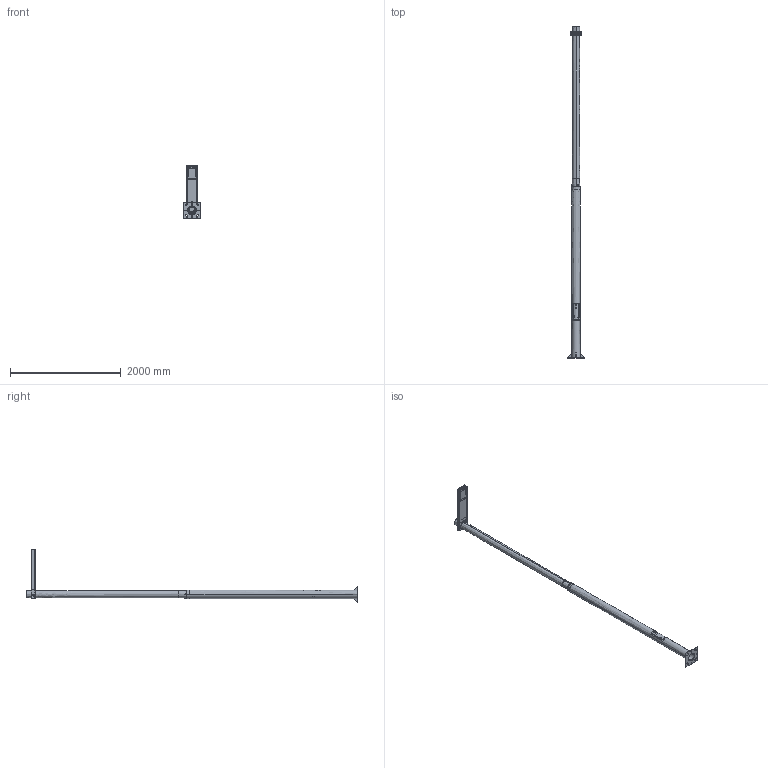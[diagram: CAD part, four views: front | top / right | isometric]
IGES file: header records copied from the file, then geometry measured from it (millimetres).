
Start section: SolidWorks IGES file using analytic representation for surfaces
Global section: file name: C:\SANTACOLE_PDM\Proyectos Catálogo\PROD-P08-042 -- RAMA LED\6_Técnico comercial\3D WEB\FAROLA RAMA LED 6.0M 1 LUMINARIA 2 SECCIONES.IGS; native system: SolidWorks 2013; preprocessor: SolidWorks 2013; author: MarioV; date: 150330.191724; units: millimetre
Bounding box: 300 x 6000 x 963 mm (x, y, z)
Volume: 11519524.3 mm3; surface area: 6732487 mm2
Topology: 44 solids, 44 shells, 4061 faces, 10833 edges, 6838 vertices
Faces by surface type: plane 2414, revolution 986, bspline 661
